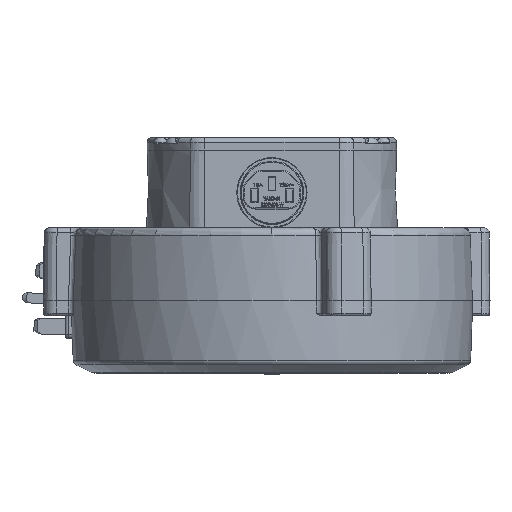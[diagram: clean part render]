
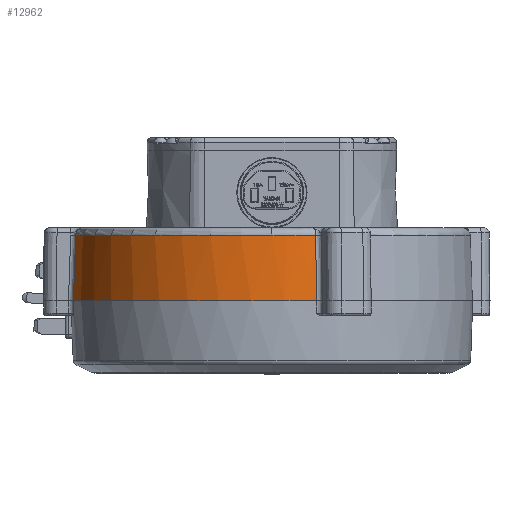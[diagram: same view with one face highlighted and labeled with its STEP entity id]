
A CAD part, left-side view. The second image highlights one B-rep face of the part: STEP entity #12962.
In plain terms, the highlighted conical face has half-angle 2 degrees and reference radius 80 mm.
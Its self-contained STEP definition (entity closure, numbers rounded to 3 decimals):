
#1493 = EDGE_CURVE ( 'NONE', #26043, #39113, #38543, .T. ) ;
#2671 = CARTESIAN_POINT ( 'NONE',  ( -12.004, 78.313, -21.893 ) ) ;
#5176 = EDGE_CURVE ( 'NONE', #46488, #37890, #44322, .T. ) ;
#5548 = DIRECTION ( 'NONE',  ( 0., 1., 0. ) ) ;
#6786 = B_SPLINE_CURVE_WITH_KNOTS ( 'NONE', 3,
 ( #42895, #46320, #32571, #43744, #24723, #27326, #16065, #53198, #13502, #31660 ),
 .UNSPECIFIED., .F., .F.,
 ( 4, 3, 3, 4 ),
 ( 0., 0.004, 0.02, 0.026 ),
 .UNSPECIFIED. ) ;
#7053 = CARTESIAN_POINT ( 'NONE',  ( -12.195, 79.065, -44. ) ) ;
#7720 = AXIS2_PLACEMENT_3D ( 'NONE', #32242, #8896, #29622 ) ;
#8379 = CONICAL_SURFACE ( 'NONE', #49716, 80., 0.035 ) ;
#8700 = EDGE_CURVE ( 'NONE', #26043, #36448, #6786, .T. ) ;
#8896 = DIRECTION ( 'NONE',  ( 0., 0., -1. ) ) ;
#9955 = AXIS2_PLACEMENT_3D ( 'NONE', #29367, #43197, #19828 ) ;
#10452 = CARTESIAN_POINT ( 'NONE',  ( -12.096, 78.676, -32.553 ) ) ;
#11358 = DIRECTION ( 'NONE',  ( 0., 0., -1. ) ) ;
#12962 = ADVANCED_FACE ( 'NONE', ( #34724 ), #8379, .T. ) ;
#13502 = CARTESIAN_POINT ( 'NONE',  ( -77.209, -17.463, -19.934 ) ) ;
#16065 = CARTESIAN_POINT ( 'NONE',  ( -77.344, -17.511, -24.012 ) ) ;
#17414 = CARTESIAN_POINT ( 'NONE',  ( 0., 0., -44. ) ) ;
#18943 = CIRCLE ( 'NONE', #7720, 79.088 ) ;
#19320 = AXIS2_PLACEMENT_3D ( 'NONE', #40111, #28856, #5548 ) ;
#19400 = ORIENTED_EDGE ( 'NONE', *, *, #5176, .T. ) ;
#19828 = DIRECTION ( 'NONE',  ( 1., 0., 0. ) ) ;
#19912 = CARTESIAN_POINT ( 'NONE',  ( -11.981, 78.223, -19.228 ) ) ;
#20636 = B_SPLINE_CURVE_WITH_KNOTS ( 'NONE', 3,
 ( #43285, #19912, #33810, #2671, #26886, #10452, #40707, #47586, #24253, #31187 ),
 .UNSPECIFIED., .F., .F.,
 ( 4, 3, 3, 4 ),
 ( 0., 0.004, 0.02, 0.026 ),
 .UNSPECIFIED. ) ;
#24253 = CARTESIAN_POINT ( 'NONE',  ( -12.177, 78.996, -41.961 ) ) ;
#24620 = CARTESIAN_POINT ( 'NONE',  ( -78.006, -17.75, -44. ) ) ;
#24723 = CARTESIAN_POINT ( 'NONE',  ( -77.697, -17.639, -34.672 ) ) ;
#26043 = VERTEX_POINT ( 'NONE', #24620 ) ;
#26886 = CARTESIAN_POINT ( 'NONE',  ( -12.05, 78.495, -27.223 ) ) ;
#27193 = EDGE_LOOP ( 'NONE', ( #44511, #19400, #52127, #36107, #30894 ) ) ;
#27326 = CARTESIAN_POINT ( 'NONE',  ( -77.521, -17.575, -29.342 ) ) ;
#28856 = DIRECTION ( 'NONE',  ( 0., 0., -1. ) ) ;
#29367 = CARTESIAN_POINT ( 'NONE',  ( 0., 0., -17.895 ) ) ;
#29622 = DIRECTION ( 'NONE',  ( 1., 0., 0. ) ) ;
#30894 = ORIENTED_EDGE ( 'NONE', *, *, #8700, .T. ) ;
#31187 = CARTESIAN_POINT ( 'NONE',  ( -12.195, 79.065, -44. ) ) ;
#31660 = CARTESIAN_POINT ( 'NONE',  ( -77.142, -17.438, -17.895 ) ) ;
#32242 = CARTESIAN_POINT ( 'NONE',  ( 0., 0., -17.895 ) ) ;
#32571 = CARTESIAN_POINT ( 'NONE',  ( -77.918, -17.718, -41.335 ) ) ;
#33810 = CARTESIAN_POINT ( 'NONE',  ( -11.992, 78.268, -20.56 ) ) ;
#34724 = FACE_OUTER_BOUND ( 'NONE', #27193, .T. ) ;
#36107 = ORIENTED_EDGE ( 'NONE', *, *, #1493, .F. ) ;
#36448 = VERTEX_POINT ( 'NONE', #40995 ) ;
#37890 = VERTEX_POINT ( 'NONE', #42462 ) ;
#38543 = CIRCLE ( 'NONE', #19320, 80. ) ;
#39113 = VERTEX_POINT ( 'NONE', #7053 ) ;
#40111 = CARTESIAN_POINT ( 'NONE',  ( 0., 0., -44. ) ) ;
#40208 = CARTESIAN_POINT ( 'NONE',  ( -79.088, 0., -17.895 ) ) ;
#40707 = CARTESIAN_POINT ( 'NONE',  ( -12.142, 78.857, -37.883 ) ) ;
#40995 = CARTESIAN_POINT ( 'NONE',  ( -77.142, -17.438, -17.895 ) ) ;
#41688 = EDGE_CURVE ( 'NONE', #36448, #46488, #18943, .T. ) ;
#42462 = CARTESIAN_POINT ( 'NONE',  ( -11.969, 78.177, -17.895 ) ) ;
#42895 = CARTESIAN_POINT ( 'NONE',  ( -78.006, -17.75, -44. ) ) ;
#43197 = DIRECTION ( 'NONE',  ( 0., 0., -1. ) ) ;
#43285 = CARTESIAN_POINT ( 'NONE',  ( -11.969, 78.177, -17.895 ) ) ;
#43744 = CARTESIAN_POINT ( 'NONE',  ( -77.874, -17.702, -40.002 ) ) ;
#44322 = CIRCLE ( 'NONE', #9955, 79.088 ) ;
#44511 = ORIENTED_EDGE ( 'NONE', *, *, #41688, .T. ) ;
#46320 = CARTESIAN_POINT ( 'NONE',  ( -77.962, -17.734, -42.667 ) ) ;
#46488 = VERTEX_POINT ( 'NONE', #40208 ) ;
#46613 = EDGE_CURVE ( 'NONE', #37890, #39113, #20636, .T. ) ;
#47586 = CARTESIAN_POINT ( 'NONE',  ( -12.159, 78.926, -39.922 ) ) ;
#49348 = DIRECTION ( 'NONE',  ( 0., 1., 0. ) ) ;
#49716 = AXIS2_PLACEMENT_3D ( 'NONE', #17414, #11358, #49348 ) ;
#52127 = ORIENTED_EDGE ( 'NONE', *, *, #46613, .T. ) ;
#53198 = CARTESIAN_POINT ( 'NONE',  ( -77.277, -17.487, -21.973 ) ) ;
